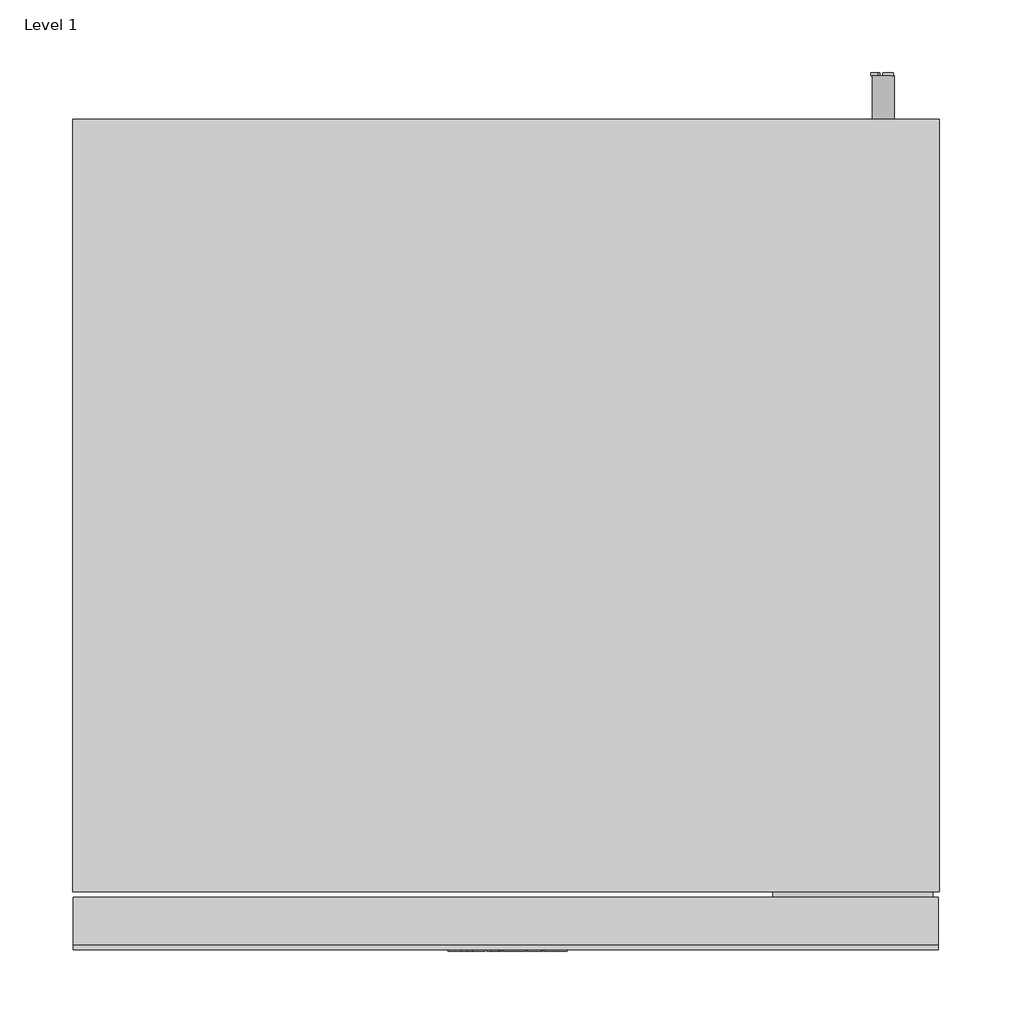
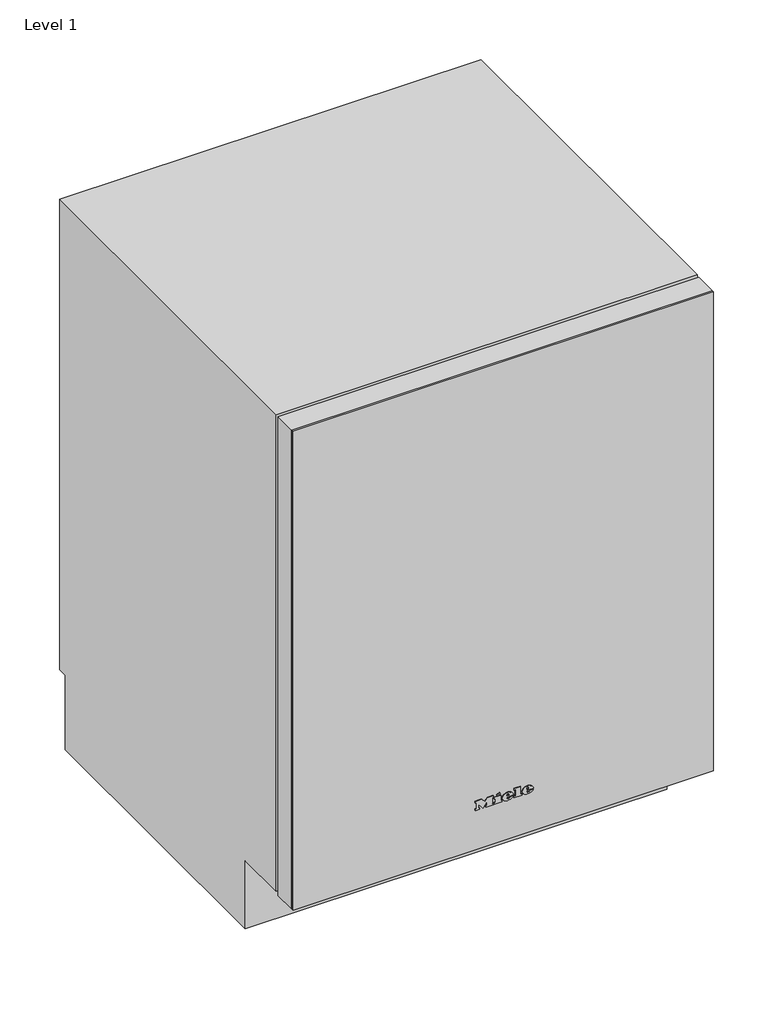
# One storey: 1 proxy.
"""IFC4 building model written with IfcOpenShell, lengths in millimetres."""

from ifc_helpers import new_model, si_unit, origin, place, context, project, spatial, transform, mapped, element, save
from components import specialty_equipment_6b9b5b4a

model = new_model("IFC4")

# Units and contexts
model_context = context("Model", 3, world=origin())
ifc_project = project(units=[si_unit("LENGTHUNIT", "METRE", prefix="MILLI")], contexts=[model_context])

# Site, building, storey
site = spatial("IfcSite", under=ifc_project)
building = spatial("IfcBuilding", under=site)
storey = spatial("IfcBuildingStorey", under=building, Name="Level 1", Elevation=0.0)

# Proxy
placement = place(None, origin())
specialty_equipment_shape = specialty_equipment_6b9b5b4a(model_context)
element("IfcBuildingElementProxy", 1, Name="10028650_USA_KWT6312UGS : 36631200_USA_10028650_KWT6312UGS", ObjectType="10028650_USA_KWT6312UGS : 36631200_USA_10028650_KWT6312UGS", at=placement, inside=storey, context=model_context, shape_type="MappedRepresentation", body=[
    mapped(specialty_equipment_shape, transform((0.0, 0.0, 0.0), x_axis=(1.0, 0.0, 0.0), y_axis=(0.0, 1.0, 0.0), z_axis=(0.0, 0.0, 1.0))),
])

save(model, "model.ifc")
